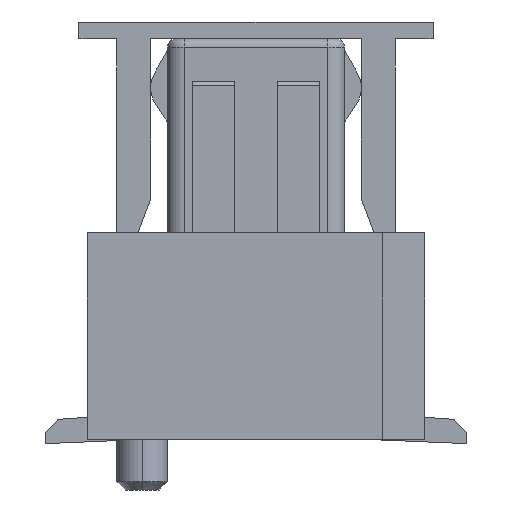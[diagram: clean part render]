
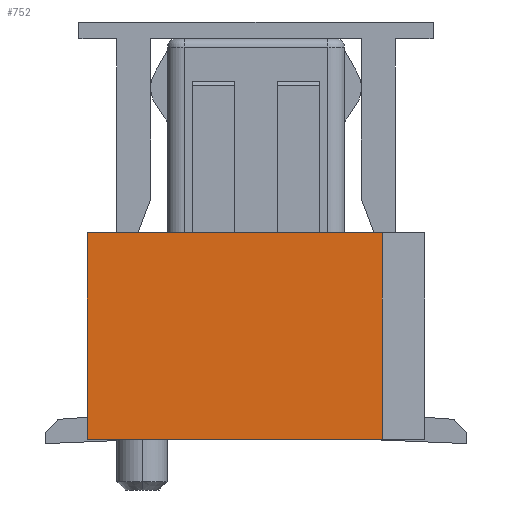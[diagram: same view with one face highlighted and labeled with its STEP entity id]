
A CAD part, left-side view. The second image highlights one B-rep face of the part: STEP entity #752.
In plain terms, the highlighted planar face has unit normal (-1, 0, 0).
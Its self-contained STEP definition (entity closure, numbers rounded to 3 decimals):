
#713=CARTESIAN_POINT('Axis2P3D Location',(-2.95,0.,0.)) ;
#718=CARTESIAN_POINT('Line Origine',(-2.95,-1.5,1.225)) ;
#722=CARTESIAN_POINT('Vertex',(-2.95,-1.5,2.45)) ;
#724=CARTESIAN_POINT('Vertex',(-2.95,-1.5,0.)) ;
#727=CARTESIAN_POINT('Line Origine',(-2.95,0.25,2.45)) ;
#731=CARTESIAN_POINT('Vertex',(-2.95,2.,2.45)) ;
#734=CARTESIAN_POINT('Line Origine',(-2.95,2.,1.225)) ;
#738=CARTESIAN_POINT('Vertex',(-2.95,2.,0.)) ;
#741=CARTESIAN_POINT('Line Origine',(-2.95,0.25,0.)) ;
#714=DIRECTION('Axis2P3D Direction',(1.,0.,0.)) ;
#715=DIRECTION('Axis2P3D XDirection',(0.,1.,0.)) ;
#719=DIRECTION('Vector Direction',(0.,0.,1.)) ;
#728=DIRECTION('Vector Direction',(0.,1.,0.)) ;
#735=DIRECTION('Vector Direction',(0.,0.,1.)) ;
#742=DIRECTION('Vector Direction',(0.,-1.,0.)) ;
#716=AXIS2_PLACEMENT_3D('Plane Axis2P3D',#713,#714,#715) ;
#747=ORIENTED_EDGE('',*,*,#726,.F.) ;
#748=ORIENTED_EDGE('',*,*,#733,.F.) ;
#749=ORIENTED_EDGE('',*,*,#740,.F.) ;
#750=ORIENTED_EDGE('',*,*,#745,.F.) ;
#720=VECTOR('Line Direction',#719,1.) ;
#729=VECTOR('Line Direction',#728,1.) ;
#736=VECTOR('Line Direction',#735,1.) ;
#743=VECTOR('Line Direction',#742,1.) ;
#752=ADVANCED_FACE('\X2\96F64EF651E04F554F53\X0\',(#751),#717,.F.) ;
#726=EDGE_CURVE('',#723,#725,#721,.F.) ;
#733=EDGE_CURVE('',#732,#723,#730,.F.) ;
#740=EDGE_CURVE('',#739,#732,#737,.T.) ;
#745=EDGE_CURVE('',#725,#739,#744,.F.) ;
#746=EDGE_LOOP('',(#747,#748,#749,#750)) ;
#751=FACE_OUTER_BOUND('',#746,.T.) ;
#721=LINE('Line',#718,#720) ;
#730=LINE('Line',#727,#729) ;
#737=LINE('Line',#734,#736) ;
#744=LINE('Line',#741,#743) ;
#717=PLANE('Plane',#716) ;
#723=VERTEX_POINT('',#722) ;
#725=VERTEX_POINT('',#724) ;
#732=VERTEX_POINT('',#731) ;
#739=VERTEX_POINT('',#738) ;
